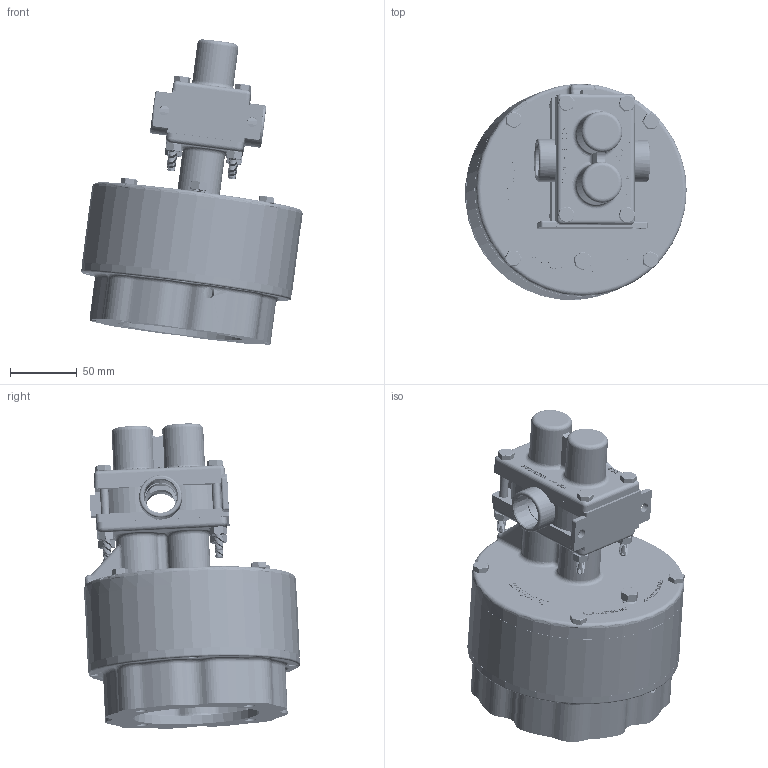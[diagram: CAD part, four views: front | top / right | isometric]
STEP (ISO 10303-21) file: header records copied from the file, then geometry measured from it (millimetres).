
FILE_DESCRIPTION (( 'STEP AP214' ), '1' );
FILE_NAME ('GMC6 FNPT IEC90 NO MOTOR.STEP', '2025-10-01T14:32:20', ( '' ), ( '' ), 'SwSTEP 2.0', 'SolidWorks 2024', '' );
FILE_SCHEMA (( 'AUTOMOTIVE_DESIGN' ));
Length unit declared in the file: inch
Products named in the file (1): GMC6 FNPT IEC90 NO MOTOR
Bounding box: 166.36 x 162.08 x 229.35 mm (x, y, z)
Volume: 826549.2 mm3; surface area: 278093.3 mm2
Topology: 25 solids, 25 shells, 3810 faces, 9086 edges, 5434 vertices
Faces by surface type: cylinder 1303, cone 1011, plane 954, bspline 366, torus 156, sphere 20
Entity records: 151053 total; most frequent: CARTESIAN_POINT 66860, ORIENTED_EDGE 18136, DIRECTION 16234, EDGE_CURVE 9068, AXIS2_PLACEMENT_3D 5802, VERTEX_POINT 5434, LINE 4630, VECTOR 4630
